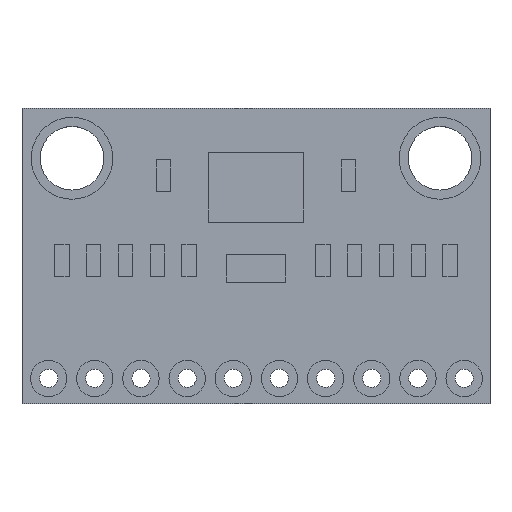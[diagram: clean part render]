
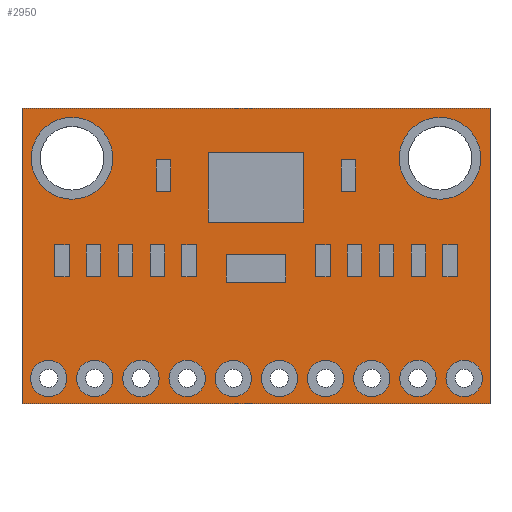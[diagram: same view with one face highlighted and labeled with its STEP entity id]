
A CAD part, top view. The second image highlights one B-rep face of the part: STEP entity #2950.
In plain terms, the highlighted planar face has unit normal (0, 0, 1).
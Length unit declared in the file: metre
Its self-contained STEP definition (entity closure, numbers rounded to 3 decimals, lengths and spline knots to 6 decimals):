
#98=CIRCLE('',#3717,0.00225);
#111=CIRCLE('',#3736,0.001);
#112=CIRCLE('',#3737,0.001);
#113=CIRCLE('',#3738,0.001);
#114=CIRCLE('',#3739,0.001);
#115=CIRCLE('',#3740,0.001);
#116=CIRCLE('',#3741,0.001);
#117=CIRCLE('',#3742,0.001);
#118=CIRCLE('',#3743,0.001);
#119=CIRCLE('',#3744,0.001);
#120=CIRCLE('',#3745,0.001);
#121=CIRCLE('',#3746,0.00225);
#510=ORIENTED_EDGE('',*,*,#1093,.F.);
#511=ORIENTED_EDGE('',*,*,#1094,.F.);
#512=ORIENTED_EDGE('',*,*,#1095,.F.);
#513=ORIENTED_EDGE('',*,*,#1096,.F.);
#514=ORIENTED_EDGE('',*,*,#1097,.F.);
#515=ORIENTED_EDGE('',*,*,#1098,.F.);
#516=ORIENTED_EDGE('',*,*,#1099,.F.);
#517=ORIENTED_EDGE('',*,*,#1100,.F.);
#518=ORIENTED_EDGE('',*,*,#1101,.F.);
#519=ORIENTED_EDGE('',*,*,#1102,.F.);
#520=ORIENTED_EDGE('',*,*,#1068,.T.);
#521=ORIENTED_EDGE('',*,*,#1103,.F.);
#522=ORIENTED_EDGE('',*,*,#1070,.F.);
#523=ORIENTED_EDGE('',*,*,#1074,.T.);
#524=ORIENTED_EDGE('',*,*,#1077,.T.);
#525=ORIENTED_EDGE('',*,*,#1080,.F.);
#1068=EDGE_CURVE('',#1380,#1380,#98,.T.);
#1070=EDGE_CURVE('',#1382,#1383,#1660,.T.);
#1074=EDGE_CURVE('',#1382,#1386,#1664,.T.);
#1077=EDGE_CURVE('',#1386,#1388,#1667,.T.);
#1080=EDGE_CURVE('',#1383,#1388,#1670,.T.);
#1093=EDGE_CURVE('',#1401,#1401,#111,.T.);
#1094=EDGE_CURVE('',#1402,#1402,#112,.T.);
#1095=EDGE_CURVE('',#1403,#1403,#113,.T.);
#1096=EDGE_CURVE('',#1404,#1404,#114,.T.);
#1097=EDGE_CURVE('',#1405,#1405,#115,.T.);
#1098=EDGE_CURVE('',#1406,#1406,#116,.T.);
#1099=EDGE_CURVE('',#1407,#1407,#117,.T.);
#1100=EDGE_CURVE('',#1408,#1408,#118,.T.);
#1101=EDGE_CURVE('',#1409,#1409,#119,.T.);
#1102=EDGE_CURVE('',#1410,#1410,#120,.T.);
#1103=EDGE_CURVE('',#1411,#1411,#121,.T.);
#1380=VERTEX_POINT('',#5297);
#1382=VERTEX_POINT('',#5302);
#1383=VERTEX_POINT('',#5303);
#1386=VERTEX_POINT('',#5311);
#1388=VERTEX_POINT('',#5317);
#1401=VERTEX_POINT('',#5349);
#1402=VERTEX_POINT('',#5351);
#1403=VERTEX_POINT('',#5353);
#1404=VERTEX_POINT('',#5355);
#1405=VERTEX_POINT('',#5357);
#1406=VERTEX_POINT('',#5359);
#1407=VERTEX_POINT('',#5361);
#1408=VERTEX_POINT('',#5363);
#1409=VERTEX_POINT('',#5365);
#1410=VERTEX_POINT('',#5367);
#1411=VERTEX_POINT('',#5369);
#1660=LINE('',#5301,#1840);
#1664=LINE('',#5310,#1844);
#1667=LINE('',#5316,#1847);
#1670=LINE('',#5322,#1850);
#1840=VECTOR('',#4276,1.);
#1844=VECTOR('',#4282,1.);
#1847=VECTOR('',#4287,1.);
#1850=VECTOR('',#4292,1.);
#2033=EDGE_LOOP('',(#510));
#2034=EDGE_LOOP('',(#511));
#2035=EDGE_LOOP('',(#512));
#2036=EDGE_LOOP('',(#513));
#2037=EDGE_LOOP('',(#514));
#2038=EDGE_LOOP('',(#515));
#2039=EDGE_LOOP('',(#516));
#2040=EDGE_LOOP('',(#517));
#2041=EDGE_LOOP('',(#518));
#2042=EDGE_LOOP('',(#519));
#2043=EDGE_LOOP('',(#520));
#2044=EDGE_LOOP('',(#521));
#2045=EDGE_LOOP('',(#522,#523,#524,#525));
#2427=FACE_BOUND('',#2033,.T.);
#2428=FACE_BOUND('',#2034,.T.);
#2429=FACE_BOUND('',#2035,.T.);
#2430=FACE_BOUND('',#2036,.T.);
#2431=FACE_BOUND('',#2037,.T.);
#2432=FACE_BOUND('',#2038,.T.);
#2433=FACE_BOUND('',#2039,.T.);
#2434=FACE_BOUND('',#2040,.T.);
#2435=FACE_BOUND('',#2041,.T.);
#2436=FACE_BOUND('',#2042,.T.);
#2437=FACE_BOUND('',#2043,.T.);
#2438=FACE_BOUND('',#2044,.T.);
#2439=FACE_BOUND('',#2045,.T.);
#2789=PLANE('',#3735);
#2950=ADVANCED_FACE('',(#2427,#2428,#2429,#2430,#2431,#2432,#2433,#2434,
#2435,#2436,#2437,#2438,#2439),#2789,.T.);
#3717=AXIS2_PLACEMENT_3D('',#5296,#4270,#4271);
#3735=AXIS2_PLACEMENT_3D('',#5347,#4318,#4319);
#3736=AXIS2_PLACEMENT_3D('',#5348,#4320,#4321);
#3737=AXIS2_PLACEMENT_3D('',#5350,#4322,#4323);
#3738=AXIS2_PLACEMENT_3D('',#5352,#4324,#4325);
#3739=AXIS2_PLACEMENT_3D('',#5354,#4326,#4327);
#3740=AXIS2_PLACEMENT_3D('',#5356,#4328,#4329);
#3741=AXIS2_PLACEMENT_3D('',#5358,#4330,#4331);
#3742=AXIS2_PLACEMENT_3D('',#5360,#4332,#4333);
#3743=AXIS2_PLACEMENT_3D('',#5362,#4334,#4335);
#3744=AXIS2_PLACEMENT_3D('',#5364,#4336,#4337);
#3745=AXIS2_PLACEMENT_3D('',#5366,#4338,#4339);
#3746=AXIS2_PLACEMENT_3D('',#5368,#4340,#4341);
#4270=DIRECTION('',(0.,0.,-1.));
#4271=DIRECTION('',(-1.,0.,0.));
#4276=DIRECTION('',(1.,0.,0.));
#4282=DIRECTION('',(0.,-1.,0.));
#4287=DIRECTION('',(1.,0.,0.));
#4292=DIRECTION('',(0.,-1.,0.));
#4318=DIRECTION('',(0.,0.,1.));
#4319=DIRECTION('',(1.,0.,0.));
#4320=DIRECTION('',(0.,0.,1.));
#4321=DIRECTION('',(1.,0.,0.));
#4322=DIRECTION('',(0.,0.,1.));
#4323=DIRECTION('',(1.,0.,0.));
#4324=DIRECTION('',(0.,0.,1.));
#4325=DIRECTION('',(1.,0.,0.));
#4326=DIRECTION('',(0.,0.,1.));
#4327=DIRECTION('',(1.,0.,0.));
#4328=DIRECTION('',(0.,0.,1.));
#4329=DIRECTION('',(1.,0.,0.));
#4330=DIRECTION('',(0.,0.,1.));
#4331=DIRECTION('',(1.,0.,0.));
#4332=DIRECTION('',(0.,0.,1.));
#4333=DIRECTION('',(1.,0.,0.));
#4334=DIRECTION('',(0.,0.,1.));
#4335=DIRECTION('',(1.,0.,0.));
#4336=DIRECTION('',(0.,0.,1.));
#4337=DIRECTION('',(1.,0.,0.));
#4338=DIRECTION('',(0.,0.,1.));
#4339=DIRECTION('',(1.,0.,0.));
#4340=DIRECTION('',(0.,0.,1.));
#4341=DIRECTION('',(1.,0.,0.));
#5296=CARTESIAN_POINT('',(0.010125,0.005375,0.));
#5297=CARTESIAN_POINT('',(0.007875,0.005375,0.));
#5301=CARTESIAN_POINT('',(-0.006438,0.008125,0.));
#5302=CARTESIAN_POINT('',(-0.012875,0.008125,0.));
#5303=CARTESIAN_POINT('',(0.012875,0.008125,0.));
#5310=CARTESIAN_POINT('',(-0.012875,0.,0.));
#5311=CARTESIAN_POINT('',(-0.012875,-0.008125,0.));
#5316=CARTESIAN_POINT('',(-0.006438,-0.008125,0.));
#5317=CARTESIAN_POINT('',(0.012875,-0.008125,0.));
#5322=CARTESIAN_POINT('',(0.012875,0.,0.));
#5347=CARTESIAN_POINT('',(0.,0.,0.));
#5348=CARTESIAN_POINT('',(0.01145,-0.006737,0.));
#5349=CARTESIAN_POINT('',(0.01245,-0.006737,0.));
#5350=CARTESIAN_POINT('',(0.00891,-0.006737,0.));
#5351=CARTESIAN_POINT('',(0.00991,-0.006737,0.));
#5352=CARTESIAN_POINT('',(0.00637,-0.006737,0.));
#5353=CARTESIAN_POINT('',(0.00737,-0.006737,0.));
#5354=CARTESIAN_POINT('',(0.00383,-0.006737,0.));
#5355=CARTESIAN_POINT('',(0.00483,-0.006737,0.));
#5356=CARTESIAN_POINT('',(0.00129,-0.006737,0.));
#5357=CARTESIAN_POINT('',(0.00229,-0.006737,0.));
#5358=CARTESIAN_POINT('',(-0.01141,-0.006737,0.));
#5359=CARTESIAN_POINT('',(-0.01041,-0.006737,0.));
#5360=CARTESIAN_POINT('',(-0.00887,-0.006737,0.));
#5361=CARTESIAN_POINT('',(-0.00787,-0.006737,0.));
#5362=CARTESIAN_POINT('',(-0.00633,-0.006737,0.));
#5363=CARTESIAN_POINT('',(-0.00533,-0.006737,0.));
#5364=CARTESIAN_POINT('',(-0.00379,-0.006737,0.));
#5365=CARTESIAN_POINT('',(-0.00279,-0.006737,0.));
#5366=CARTESIAN_POINT('',(-0.00125,-0.006737,0.));
#5367=CARTESIAN_POINT('',(-0.00025,-0.006737,0.));
#5368=CARTESIAN_POINT('',(-0.010125,0.005375,0.));
#5369=CARTESIAN_POINT('',(-0.007875,0.005375,0.));
